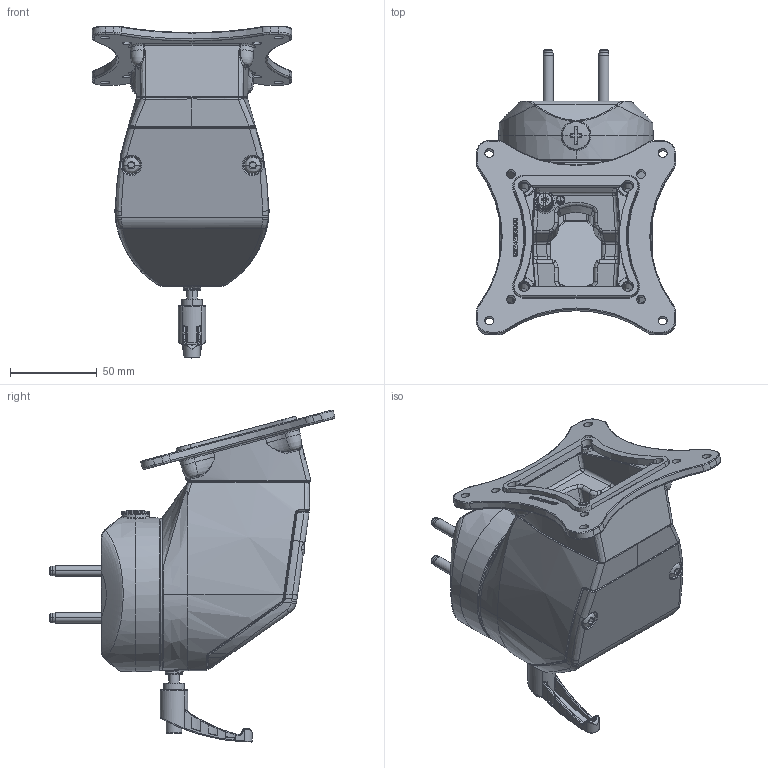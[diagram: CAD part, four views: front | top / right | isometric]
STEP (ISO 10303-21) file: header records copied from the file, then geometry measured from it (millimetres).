
FILE_DESCRIPTION((''),'2;1');
FILE_NAME('1015500011_ASM','2025-07-22T10:41:57',('Falk.Schoember'),(''),'CREO PARAMETRIC BY PTC INC, 2022124','CREO PARAMETRIC BY PTC INC, 2022124','');
FILE_SCHEMA(('AUTOMOTIVE_DESIGN { 1 0 10303 214 1 1 1 1 }'));
Products named in the file (47): 9324253000_AF1; EN_AC-47100-EN_AC-ALSI12CU_FE; 9261441000; 1_0402; 9620501000_ASM; 9641000001_ASM; 9371087000; POM_HOSTAFORM_C9021_GV1_10; 9324258000_AF0; 9620506000_ASM; 9641000006_ASM; 9231840000_AF3; NBR_70GR_SHORE_A; 9411111000_VG00290; CUSN6_HV_180_DIN_17670-1; 9371088000; 9502395000; 11SMNPB30; 9263051000; ST; 9432510000; PA66; 9231841000; NBR_ZELLKAUTSCHUK; 9324263000_AF1; 9620512000_ASM; 9641000012_ASM; 9261635000; 1_0037; 9324259000_AF0; GD_ALSI12_CU_LEG_231; 9620507000_ASM; 9641000007_ASM; 9261654000; NN; 9222005000; KRÜLIT_825_T; 9251096000; PA; 9261655000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
Assembly tree (39 placements, depth 4):
  EN_AC-47100-EN_AC-ALSI12CU_FE
  1_0402
  POM_HOSTAFORM_C9021_GV1_10
  EN_AC-47100-EN_AC-ALSI12CU_FE
  NBR_70GR_SHORE_A
Bounding box: 114.96 x 164.85 x 191.43 mm (x, y, z)
Volume: 506672.1 mm3; surface area: 204734.3 mm2
Topology: 31 solids, 31 shells, 4709 faces, 12098 edges, 7551 vertices
Faces by surface type: plane 2311, bspline 993, cylinder 595, cone 422, torus 325, sphere 43, revolution 12, extrusion 8
Entity records: 246486 total; most frequent: CARTESIAN_POINT 83339, ORIENTED_EDGE 21760, DIRECTION 17753, PRESENTATION_STYLE_ASSIGNMENT 14729, STYLED_ITEM 14649, CURVE_STYLE 10900, EDGE_CURVE 10880, VERTEX_POINT 6794
